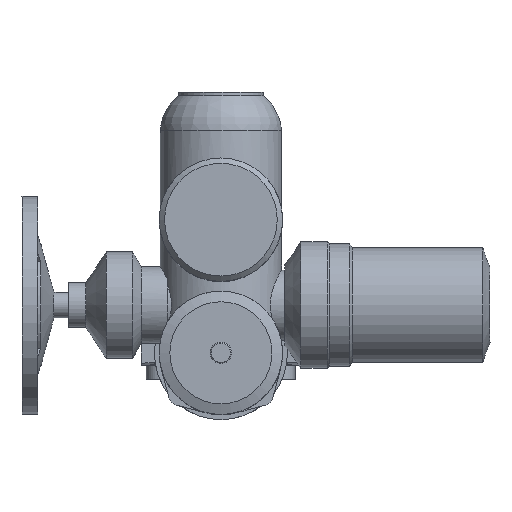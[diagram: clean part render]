
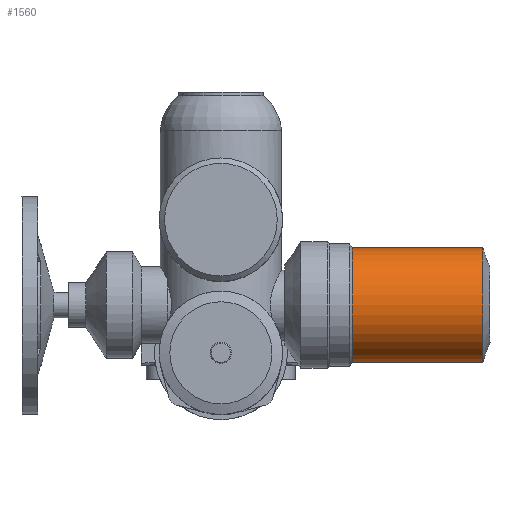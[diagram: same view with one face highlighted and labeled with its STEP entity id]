
A CAD part, top view. The second image highlights one B-rep face of the part: STEP entity #1560.
In plain terms, the highlighted cylindrical face has radius 54 mm (diameter 108 mm), a full revolution.
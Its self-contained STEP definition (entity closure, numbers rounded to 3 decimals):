
#1560=ADVANCED_FACE('',(#3520,#3522),#3524,.T.);
#3520=FACE_OUTER_BOUND('',#3521,.T.);
#3521=EDGE_LOOP('',(#4924));
#3522=FACE_OUTER_BOUND('',#3523,.T.);
#3523=EDGE_LOOP('',(#4925));
#3524=CYLINDRICAL_SURFACE('',#3525,54.);
#3525=AXIS2_PLACEMENT_3D('',#3526,#3527,#3528);
#3526=CARTESIAN_POINT('',(246.085,45.,362.));
#3527=DIRECTION('',(-1.,0.,0.));
#3528=DIRECTION('',(0.,0.,1.));
#4924=ORIENTED_EDGE('',*,*,#5747,.T.);
#4925=ORIENTED_EDGE('',*,*,#5669,.F.);
#5669=EDGE_CURVE('',#6524,#6524,#6525,.T.);
#5747=EDGE_CURVE('',#6648,#6648,#6649,.T.);
#6524=VERTEX_POINT('',#9439);
#6525=CIRCLE('',#9440,54.);
#6648=VERTEX_POINT('',#9735);
#6649=CIRCLE('',#9736,54.);
#9439=CARTESIAN_POINT('',(123.505,45.,416.));
#9440=AXIS2_PLACEMENT_3D('',#9441,#9442,#9443);
#9441=CARTESIAN_POINT('',(123.505,45.,362.));
#9442=DIRECTION('',(-1.,0.,0.));
#9443=DIRECTION('',(0.,0.,1.));
#9735=CARTESIAN_POINT('',(246.085,45.,416.));
#9736=AXIS2_PLACEMENT_3D('',#9737,#9738,#9739);
#9737=CARTESIAN_POINT('',(246.085,45.,362.));
#9738=DIRECTION('',(-1.,0.,0.));
#9739=DIRECTION('',(0.,0.,1.));
